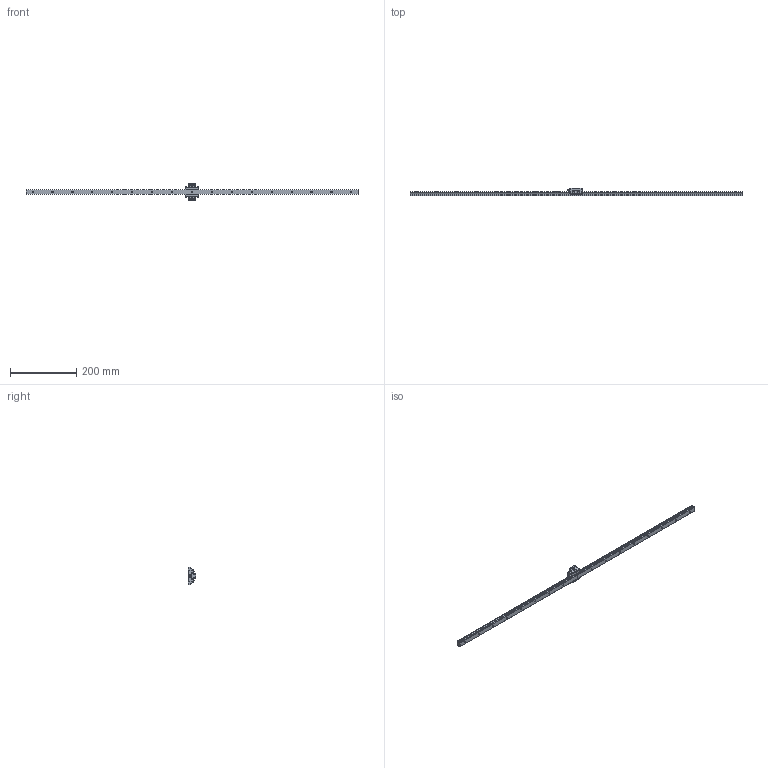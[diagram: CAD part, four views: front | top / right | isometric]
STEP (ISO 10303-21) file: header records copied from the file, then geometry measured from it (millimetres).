
FILE_DESCRIPTION(/* description */ ('STEP AP214'),/* implementation_level */ '2;1');
FILE_NAME(/* name */ 'SR15SB1SS-1000L_G20_0_PB1021B_479-8_0_0_0',/* time_stamp */ '2023-08-14T11:27:43+02:00',/* author */ ('License CC BY-ND 4.0'),/* organization */ ('CADENAS'),/* preprocessor_version */ 'ST-DEVELOPER v19.3',/* originating_system */ 'PARTsolutions',/* authorisation */ ' ');
FILE_SCHEMA (('AUTOMOTIVE_DESIGN {1 0 10303 214 3 1 1}'));
Length unit declared in the file: millimetre
Products named in the file (4): SR15SB1SS-1000L_G20_0_PB1021B_479-8_0_0_0_; SR-PB1021B_grease_nipple_joint; SR15SBSSPB1021B Slide15-150; SR15TB100020 SB Track
Assembly tree (3 placements, depth 2):
  SR15SB1SS-1000L_G20_0_PB1021B_479-8_0_0_0_
    SR-PB1021B_grease_nipple_joint
    SR15SBSSPB1021B Slide15-150
    SR15TB100020 SB Track
Bounding box: 1000 x 24 x 52 mm (x, y, z)
Volume: 188207.2 mm3; surface area: 68359.7 mm2
Topology: 3 solids, 3 shells, 208 faces, 546 edges, 364 vertices
Faces by surface type: plane 140, cylinder 67, sphere 1
Full cylindrical faces by diameter (mm): 3.5 x17, 4 x3, 4.5 x2, 6 x18, 7.5 x1
Entity records: 6365 total; most frequent: CARTESIAN_POINT 1092, DIRECTION 1060, ORIENTED_EDGE 1004, EDGE_CURVE 502, VERTEX_POINT 362, LINE 360, VECTOR 360, AXIS2_PLACEMENT_3D 350
